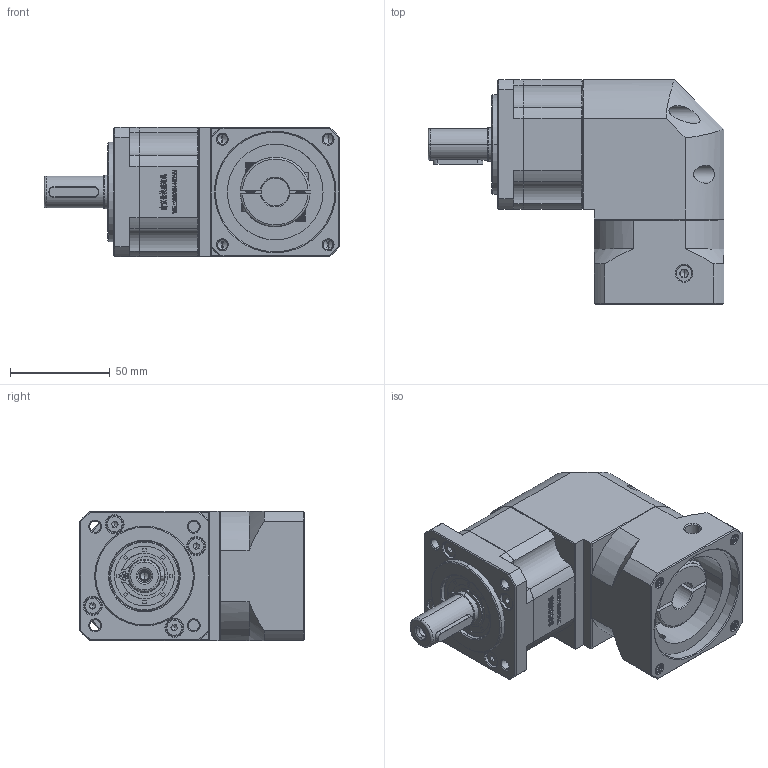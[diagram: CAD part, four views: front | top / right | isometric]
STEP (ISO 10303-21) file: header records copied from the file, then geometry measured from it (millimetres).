
FILE_DESCRIPTION (( 'STEP AP214' ), '1' );
FILE_NAME ('ZBR60-D16-L1-14-60-75-M6.STEP', '2022-04-19T09:05:18', ( '' ), ( 'Microsoft' ), 'SwSTEP 2.0', 'SolidWorks 2016', '' );
FILE_SCHEMA (( 'AUTOMOTIVE_DESIGN' ));
Length unit declared in the file: millimetre
Products named in the file (1): ZBR60-D16-L1-14-60-75-M6
Bounding box: 148.5 x 112.7 x 65 mm (x, y, z)
Volume: 541272.4 mm3; surface area: 79695.8 mm2
Topology: 5 solids, 5 shells, 2839 faces, 7701 edges, 4998 vertices
Faces by surface type: plane 1472, bspline 579, cylinder 428, cone 328, torus 32
Entity records: 154727 total; most frequent: CARTESIAN_POINT 56209, ORIENTED_EDGE 15342, DIRECTION 11723, EDGE_CURVE 7671, LINE 5067, VECTOR 5067, VERTEX_POINT 4998, AXIS2_PLACEMENT_3D 3328
